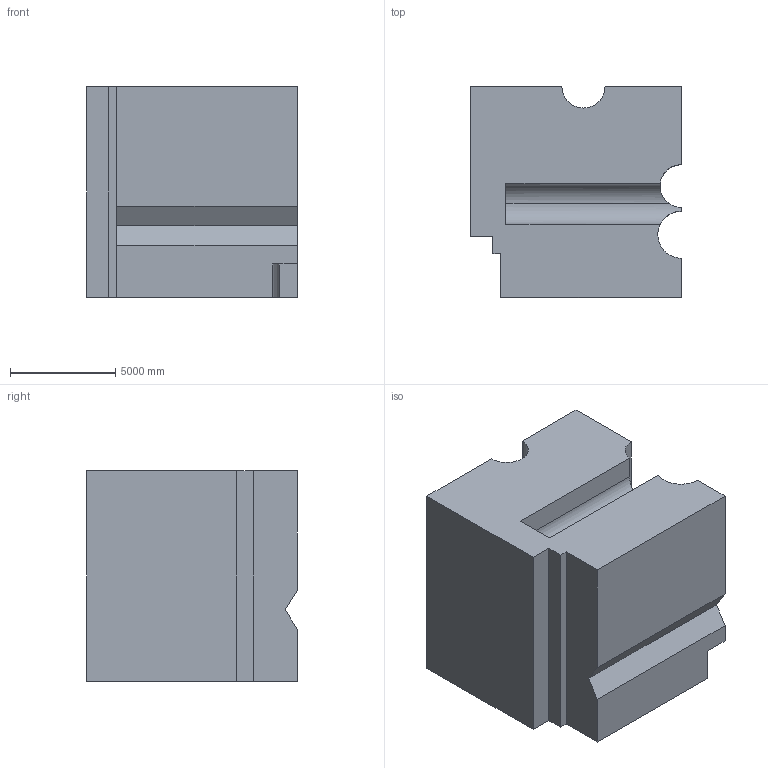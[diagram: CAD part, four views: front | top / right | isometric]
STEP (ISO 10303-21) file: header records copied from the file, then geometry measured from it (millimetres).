
FILE_DESCRIPTION (( 'STEP AP203' ), '1' );
FILE_NAME ('994.STEP', '2022-08-04T16:24:10', ( 'user' ), ( '' ), 'SwSTEP 2.0', 'SolidWorks 2021', '' );
FILE_SCHEMA (( 'CONFIG_CONTROL_DESIGN' ));
Length unit declared in the file: centimetre
Products named in the file (1): 994
Bounding box: 10000 x 10000 x 10000 mm (x, y, z)
Volume: 851238454677.7 mm3; surface area: 666018105.5 mm2
Topology: 1 solids, 1 shells, 34 faces, 93 edges, 62 vertices
Faces by surface type: plane 24, cylinder 10
Entity records: 1336 total; most frequent: CARTESIAN_POINT 380, ORIENTED_EDGE 186, DIRECTION 179, EDGE_CURVE 93, VECTOR 69, LINE 69, VERTEX_POINT 62, AXIS2_PLACEMENT_3D 55
